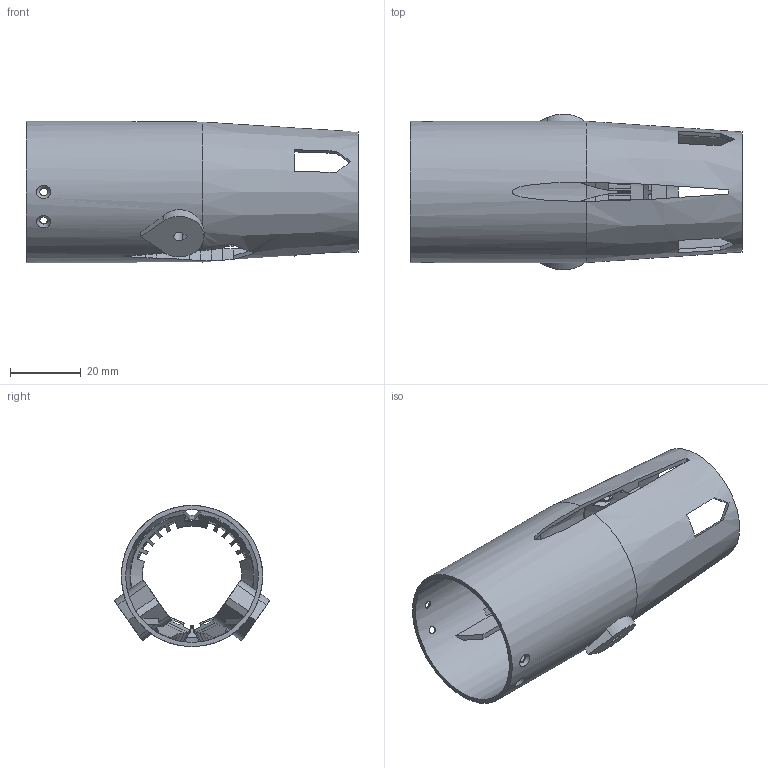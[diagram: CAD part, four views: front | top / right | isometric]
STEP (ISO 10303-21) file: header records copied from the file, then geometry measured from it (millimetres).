
FILE_DESCRIPTION(('SkyG Speed 90B - revision C6B-5 - 2026-10-08','F3-tail-module'),'2;1');
FILE_NAME('F3-tail-module_C6B-5','2026-10-08T10:12:27',('Author'),( 'Open CASCADE'),'Open CASCADE STEP processor 7.9','Open CASCADE 7.9' ,'Unknown');
FILE_SCHEMA(('AUTOMOTIVE_DESIGN { 1 0 10303 214 1 1 1 1 }'));
Length unit declared in the file: millimetre
Products named in the file (1): F3-tail-module C6B-5
Bounding box: 94 x 44.07 x 40 mm (x, y, z)
Volume: 16856.2 mm3; surface area: 24140.4 mm2
Topology: 1 solids, 1 shells, 399 faces, 1227 edges, 815 vertices
Faces by surface type: plane 271, cylinder 80, bspline 36, cone 12
Full cylindrical faces by diameter (mm): 2.2 x4, 37.6 x1, 40 x1
Entity records: 40978 total; most frequent: CARTESIAN_POINT 19548, DIRECTION 3081, ORIENTED_EDGE 2454, PCURVE 2454, DEFINITIONAL_REPRESENTATION 2454, B_SPLINE_CURVE_WITH_KNOTS 1618, LINE 1500, VECTOR 1500
